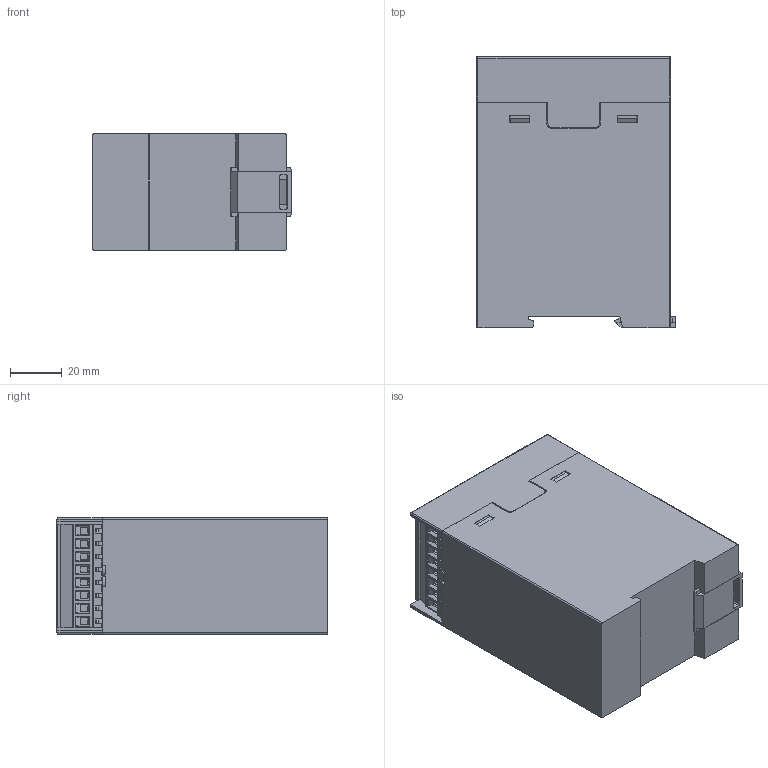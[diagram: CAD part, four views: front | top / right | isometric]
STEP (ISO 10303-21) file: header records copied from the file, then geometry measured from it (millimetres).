
FILE_DESCRIPTION (( 'STEP AP214' ), '1' );
FILE_NAME ('ESD3.STEP', '2026-03-23T10:10:10', ( '' ), ( '' ), 'SwSTEP 2.0', 'SolidWorks 2022', '' );
FILE_SCHEMA (( 'AUTOMOTIVE_DESIGN' ));
Length unit declared in the file: millimetre
Products named in the file (32): 2023_01_30_09_39_44_0954.stp.STEP; 2023_01_30_09_39_44_0845.stp.STEP; 2023_01_30_09_39_45_0076.stp.STEP; 2023_01_30_09_39_44_0923.stp.STEP; pxc_1792582_03_MVSTBW-2-5-8-ST; 2023_01_30_09_39_45_0060.stp.STEP; EG_45-A_ABS_H.Select__00277108.stp; 2023_01_30_09_39_44_0907.stp.STEP; 2023_01_30_09_39_44_0985.stp.STEP; ESD3; 2023_01_30_09_39_45_0001.stp.STEP; 2023_01_30_09_39_44_0767.stp.STEP; 2023_01_30_09_39_44_0892.stp.STEP; 2023_01_30_09_39_45_0123.stp.STEP; 2023_01_30_09_39_45_0170.stp.STEP; pxc_1792582_03_MVSTBW-2-5-8-ST.STEP; 2023_01_30_09_39_45_0045.stp.STEP; 2023_01_30_09_39_44_0876.stp.STEP; pxc_1792582_03_MVSTBW-2-5-8-ST_3D.stp.STEP; 2023_01_30_09_39_45_0138.stp.STEP; 2023_01_30_09_39_45_0091.stp.STEP; 2023_01_30_09_39_45_0107.stp.STEP; pxc_2764179_01_00_EG-45-A-ABS-GN_3D.stp; 2023_01_30_09_39_44_0860.stp.STEP; 2023_01_30_09_39_45_0185.stp.STEP; pxc_2764140_02_00_EG-45-G-ABS-GN_3D; 2023_01_30_09_39_45_0201.stp.STEP; 2023_01_30_09_39_44_0970.stp.STEP; 2023_01_30_09_39_45_0154.stp.STEP; 2023_01_30_09_39_45_0012.stp.STEP; 2023_01_30_09_39_44_0938.stp.STEP; 2023_01_30_09_39_45_0029.stp.STEP
Assembly tree (32 placements, depth 5):
  ESD3
    pxc_2764179_01_00_EG-45-A-ABS-GN_3D.stp
      EG_45-A_ABS_H.Select__00277108.stp
    pxc_2764140_02_00_EG-45-G-ABS-GN_3D
    pxc_1792582_03_MVSTBW-2-5-8-ST  x2
      pxc_1792582_03_MVSTBW-2-5-8-ST.STEP
        pxc_1792582_03_MVSTBW-2-5-8-ST_3D.stp.STEP
          2023_01_30_09_39_45_0201.stp.STEP
          2023_01_30_09_39_45_0185.stp.STEP
          2023_01_30_09_39_45_0170.stp.STEP
          2023_01_30_09_39_45_0154.stp.STEP
          2023_01_30_09_39_45_0138.stp.STEP
          2023_01_30_09_39_45_0123.stp.STEP
          2023_01_30_09_39_45_0107.stp.STEP
          2023_01_30_09_39_45_0091.stp.STEP
          2023_01_30_09_39_45_0076.stp.STEP
          2023_01_30_09_39_45_0060.stp.STEP
          2023_01_30_09_39_45_0045.stp.STEP
          2023_01_30_09_39_45_0029.stp.STEP
          2023_01_30_09_39_45_0012.stp.STEP
          2023_01_30_09_39_45_0001.stp.STEP
          2023_01_30_09_39_44_0985.stp.STEP
          2023_01_30_09_39_44_0970.stp.STEP
          2023_01_30_09_39_44_0954.stp.STEP
          2023_01_30_09_39_44_0938.stp.STEP
          2023_01_30_09_39_44_0923.stp.STEP
          2023_01_30_09_39_44_0907.stp.STEP
          2023_01_30_09_39_44_0892.stp.STEP
          2023_01_30_09_39_44_0876.stp.STEP
          2023_01_30_09_39_44_0860.stp.STEP
          2023_01_30_09_39_44_0845.stp.STEP
          2023_01_30_09_39_44_0767.stp.STEP
Bounding box: 76.85 x 105.13 x 45.02 mm (x, y, z)
Volume: 77329.5 mm3; surface area: 85318.3 mm2
Topology: 52 solids, 52 shells, 2228 faces, 5888 edges, 3852 vertices
Faces by surface type: plane 1742, cylinder 454, cone 32
Entity records: 44333 total; most frequent: CARTESIAN_POINT 7650, ORIENTED_EDGE 7384, DIRECTION 7072, EDGE_CURVE 3692, VECTOR 3084, LINE 3084, VERTEX_POINT 2420, AXIS2_PLACEMENT_3D 1994
